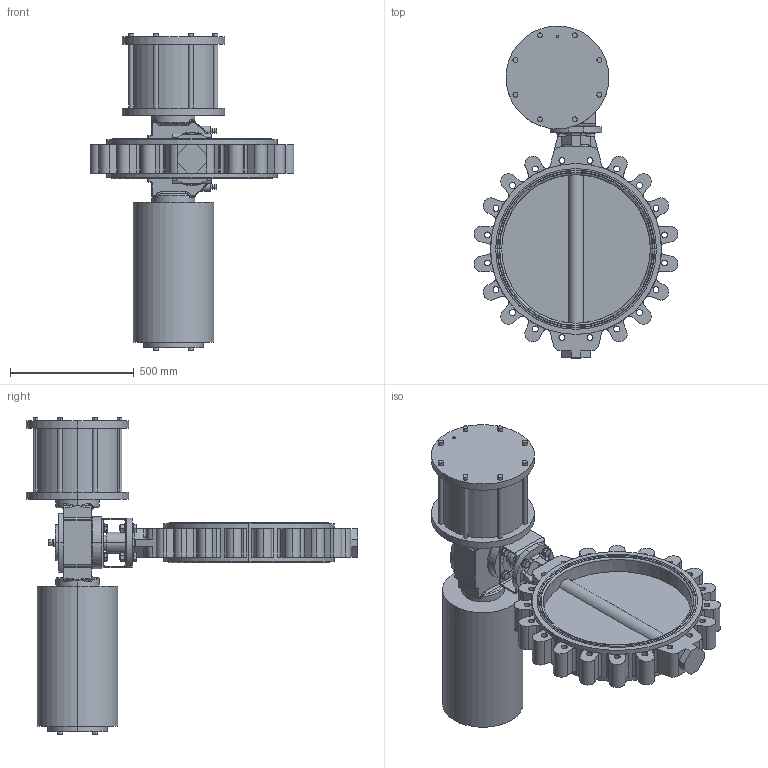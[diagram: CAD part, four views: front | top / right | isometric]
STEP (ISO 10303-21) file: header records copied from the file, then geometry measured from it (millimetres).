
FILE_DESCRIPTION (( 'STEP AP214' ), '1' );
FILE_NAME ('67382.step', '2020-10-23T12:39:19', ( '' ), ( '' ), 'SwSTEP 2.0', 'SolidWorks 2019', '' );
FILE_SCHEMA (( 'AUTOMOTIVE_DESIGN' ));
Length unit declared in the file: millimetre
Products named in the file (10): 67382; Passfeder DIN 6885 A_18_11X125; SY01F16-350 SR6; 6kt-Mu DIN 934_M20; MB F16-F16_MB F16-F14 (1.4301); 6kt-Schr DIN 933_M20x55; 67387; U-Scheibe DIN 125 A_M20; TL20-0600_M01; 6kt-Schr DIN 933_M20x35
Assembly tree (29 placements, depth 2):
  67382
    TL20-0600_M01
    SY01F16-350 SR6
    U-Scheibe DIN 125 A_M20  x12
    6kt-Schr DIN 933_M20x55  x4
    MB F16-F16_MB F16-F14 (1.4301)
    6kt-Mu DIN 934_M20  x4
    6kt-Schr DIN 933_M20x35  x4
    67387
    Passfeder DIN 6885 A_18_11X125
Bounding box: 823.44 x 1339.5 x 1282 mm (x, y, z)
Volume: 128197540.4 mm3; surface area: 4202037.6 mm2
Topology: 29 solids, 29 shells, 1167 faces, 2748 edges, 1677 vertices
Faces by surface type: cylinder 463, plane 437, cone 145, bspline 70, torus 52
Entity records: 32209 total; most frequent: CARTESIAN_POINT 10115, DIRECTION 4484, ORIENTED_EDGE 4196, EDGE_CURVE 2098, AXIS2_PLACEMENT_3D 1779, VERTEX_POINT 1313, EDGE_LOOP 1017, CIRCLE 944
